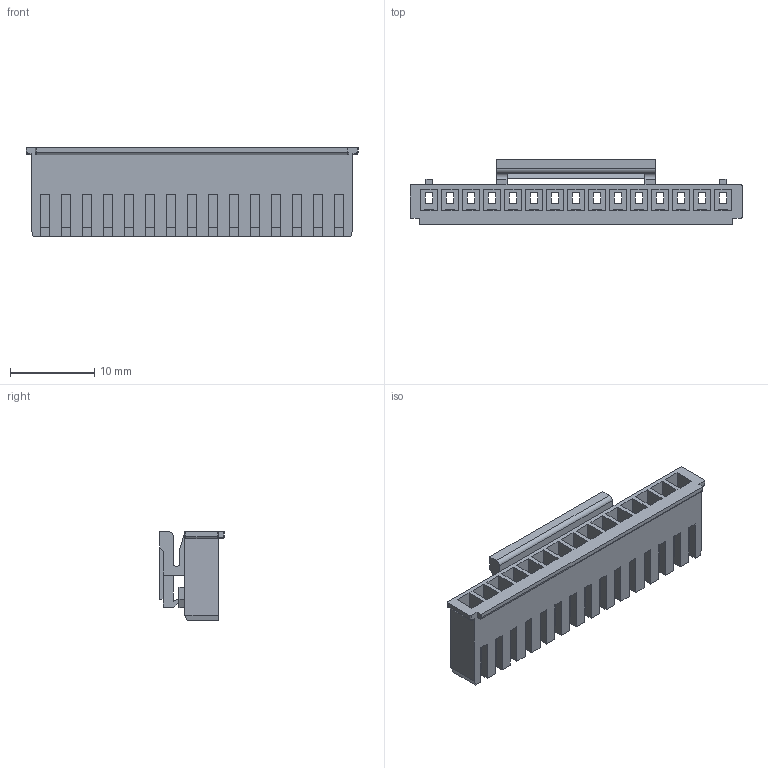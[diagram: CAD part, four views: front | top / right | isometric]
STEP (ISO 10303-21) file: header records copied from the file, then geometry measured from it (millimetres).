
FILE_DESCRIPTION(('CATIA V5 STEP Exchange'),'2;1');
FILE_NAME('Z:\3D文件\小黄（备用文件夹）\条形连接器-小黄\XHL\NY\HC-XHL-15Y-05（2.50 单排 孔座-HCTL）.stp','2025-05-13T09:14:02+00:00',('none'),('none'),'CATIA Version 5 Release 20 GA (IN-10)','CATIA V5 STEP AP203','none');
FILE_SCHEMA(('CONFIG_CONTROL_DESIGN'));
Length unit declared in the file: millimetre
Products named in the file (1): Part2
Bounding box: 39.5 x 7.7 x 10.5 mm (x, y, z)
Volume: 1035.6 mm3; surface area: 3005.8 mm2
Topology: 1 solids, 1 shells, 334 faces, 961 edges, 614 vertices
Faces by surface type: plane 310, cylinder 18, torus 6
Entity records: 10113 total; most frequent: ORIENTED_EDGE 1922, CARTESIAN_POINT 1824, DIRECTION 1343, EDGE_CURVE 961, VECTOR 919, LINE 919, VERTEX_POINT 614, EDGE_LOOP 381
